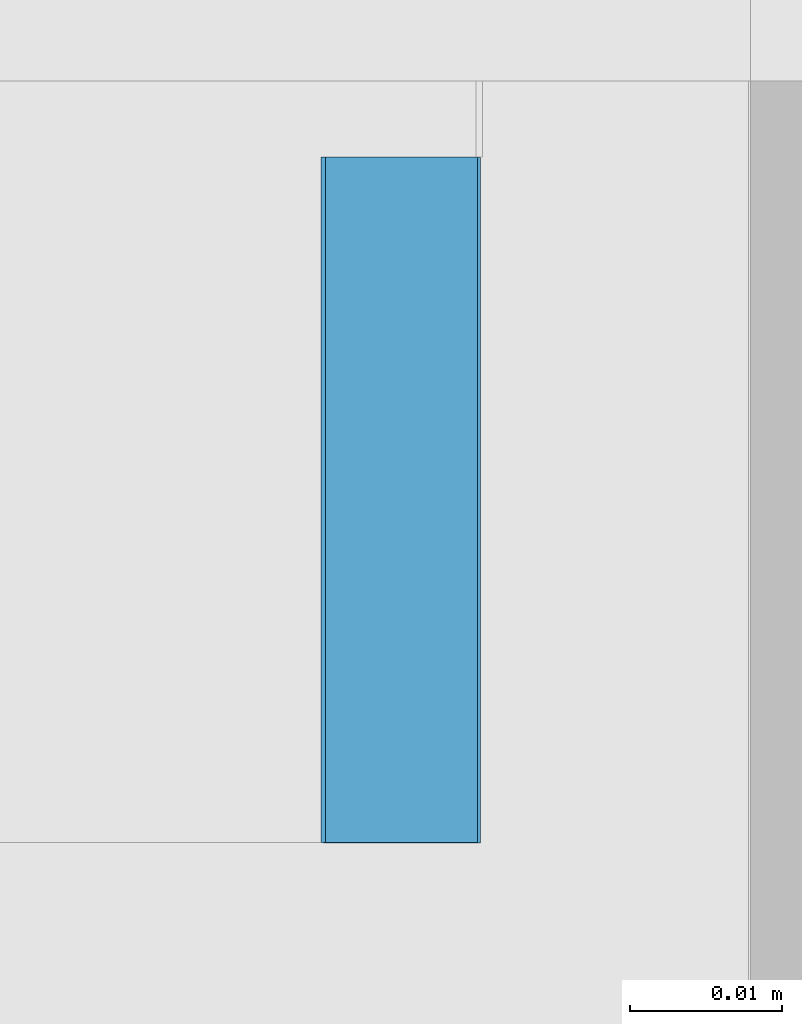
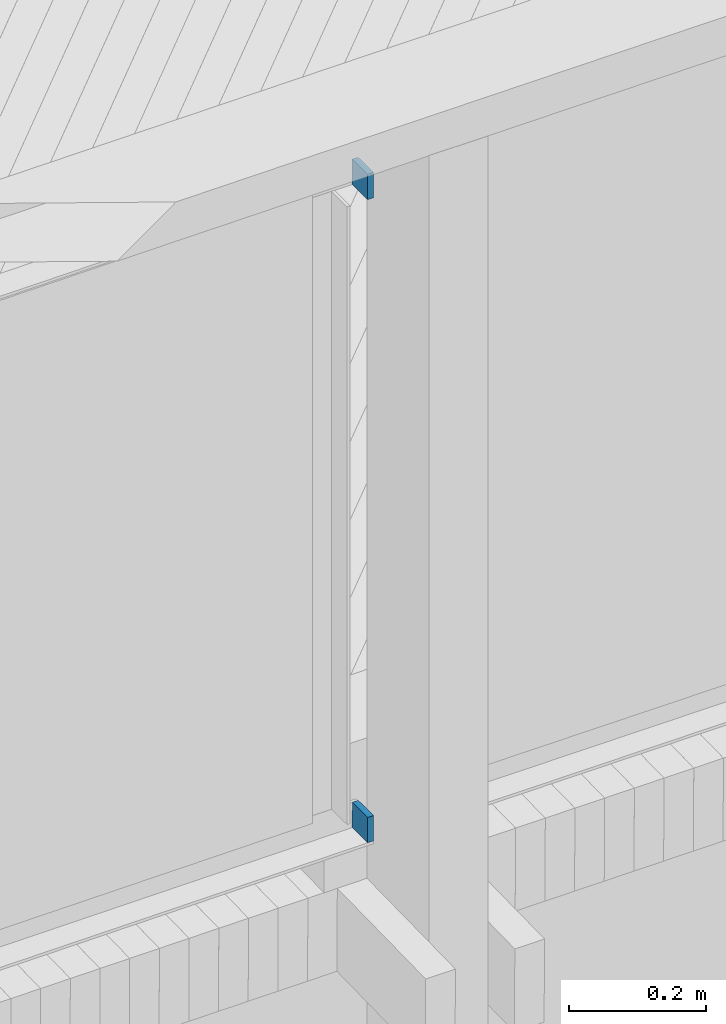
# One storey, part 57 of 65: 2 beams.
"""IFC2X3 building model written with IfcOpenShell, lengths in millimetres."""

from ifc_helpers import new_model, si_unit, frame, origin_with_axes, place, context, subcontext, project, spatial, faceted_brep, material, type_object, element, save


model = new_model("IFC2X3")

# Units and contexts
model_context = context("Model", 3, precision=1e-05, world=origin_with_axes())
body_context = subcontext(model_context, "Body", "Model", "MODEL_VIEW")
ifc_project = project(units=[si_unit("LENGTHUNIT", "METRE", prefix="MILLI"), si_unit("AREAUNIT", "SQUARE_METRE"), si_unit("VOLUMEUNIT", "CUBIC_METRE"), si_unit("MASSUNIT", "GRAM", prefix="KILO"), si_unit("TIMEUNIT", "SECOND"), si_unit("PLANEANGLEUNIT", "RADIAN"), si_unit("SOLIDANGLEUNIT", "STERADIAN"), si_unit("THERMODYNAMICTEMPERATUREUNIT", "DEGREE_CELSIUS"), si_unit("LUMINOUSINTENSITYUNIT", "LUMEN")], contexts=[model_context])

# Site, building, storey
site_placement = place(None, origin_with_axes())
site = spatial("IfcSite", under=ifc_project, at=site_placement, Name="Undefined", CompositionType="ELEMENT")
building_placement = place(site_placement, origin_with_axes())
building = spatial("IfcBuilding", under=site, at=building_placement, Name="Undefined", CompositionType="ELEMENT")
storey_placement = place(building_placement, origin_with_axes())
storey = spatial("IfcBuildingStorey", under=building, at=storey_placement, Name="Undefined", CompositionType="ELEMENT", Elevation=0.0)

# Beams
ifc_material = material(Name="STEEL/S235JR")
beam_type = type_object("IfcBeamType", Name="PL45*10", PredefinedType="NOTDEFINED")
for number, where, z_axis, x_axis, name in (
    (1, (3927.11735667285, 20209.9799999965, 3280.11951086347), (-0.00684613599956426, 0.0, -0.999976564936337), (0.0, -1.0, 0.0), "BEAM"),
    (2, (3926.95376452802, 20210.0099999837, 4425.1190043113), (0.00623752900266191, 0.0, 0.99998054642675), (0.0, -1.0, 0.0), "BEAM"),
):
    element("IfcBeam", number, at=place(storey_placement, frame(where, z_axis=z_axis, x_axis=x_axis)), inside=storey, type_object=beam_type, material=ifc_material, Name=name, ObjectType="PL45*10", context=body_context, shape_type="Brep", body=[
        faceted_brep([(0.0, 5.0, -22.5), (0.0, 5.0, 22.5), (45.0, 5.0, 22.5), (45.0, 5.0, -22.5), (0.0, -5.0, 22.5), (45.0, -5.0, 22.5), (0.0, -5.0, -22.5000000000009), (45.0, -5.0, -22.5000000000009)], [[[0, 1, 2, 3]], [[1, 4, 5, 2]], [[4, 6, 7, 5]], [[6, 0, 3, 7]], [[5, 7, 3, 2]], [[6, 4, 1, 0]]]),
    ])

save(model, "model.ifc")
